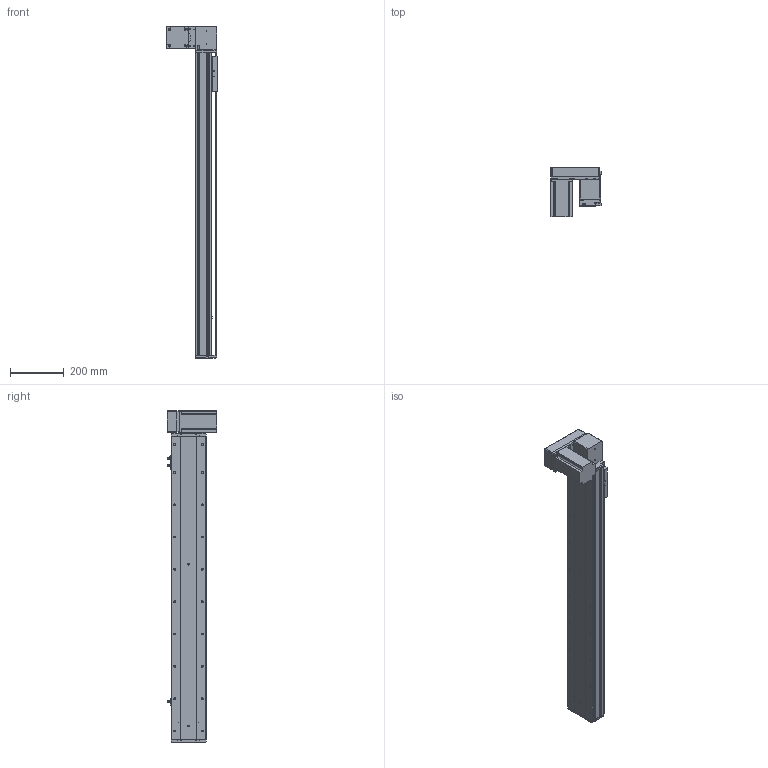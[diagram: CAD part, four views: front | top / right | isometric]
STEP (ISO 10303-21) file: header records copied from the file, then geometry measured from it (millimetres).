
FILE_DESCRIPTION (( 'STEP AP214' ), '1' );
FILE_NAME ('KSD130B-S900-MRD-CM.STEP', '2019-09-23T01:39:00', ( '微软用户' ), ( '微软中国' ), 'SwSTEP 2.0', 'SolidWorks 2014', '' );
FILE_SCHEMA (( 'AUTOMOTIVE_DESIGN' ));
Length unit declared in the file: millimetre
Products named in the file (12): 台达ECMA－C20807AS伺服电机; 130宽模组马达安装板连板上下折丝杆同步带; 覜茼え100遵圉猾敕; U倰嫖萇EEㄜSX672; 130宽盖板半封闭同步带-900行程; 130宽马达安装板同步带右-改镜向_默认<按加工>; 130宽马达安装板同步带半封闭; 130宽同步带安装座半封闭; 130宽端盖同步带半封闭; 130宽底板半封闭同步带-900行程; KSD130B-S900-MRD-CM; 130宽模组保护罩上下左右折-同步带
Assembly tree (13 placements, depth 2):
  KSD130B-S900-MRD-CM
    130宽底板半封闭同步带-900行程
    130宽端盖同步带半封闭
    130宽同步带安装座半封闭
    130宽马达安装板同步带半封闭
    130宽马达安装板同步带右-改镜向_默认<按加工>
    130宽盖板半封闭同步带-900行程
    U倰嫖萇EEㄜSX672  x3
    覜茼え100遵圉猾敕
    130宽模组马达安装板连板上下折丝杆同步带
    台达ECMA－C20807AS伺服电机
    130宽模组保护罩上下左右折-同步带
Bounding box: 186 x 184.8 x 1233 mm (x, y, z)
Volume: 4696122.3 mm3; surface area: 1273604.7 mm2
Topology: 14 solids, 14 shells, 1509 faces, 4305 edges, 2751 vertices
Faces by surface type: cylinder 720, plane 622, cone 167
Entity records: 49475 total; most frequent: CARTESIAN_POINT 9144, DIRECTION 7543, ORIENTED_EDGE 7262, EDGE_CURVE 3631, AXIS2_PLACEMENT_3D 2750, VERTEX_POINT 2375, LINE 2043, VECTOR 2043
